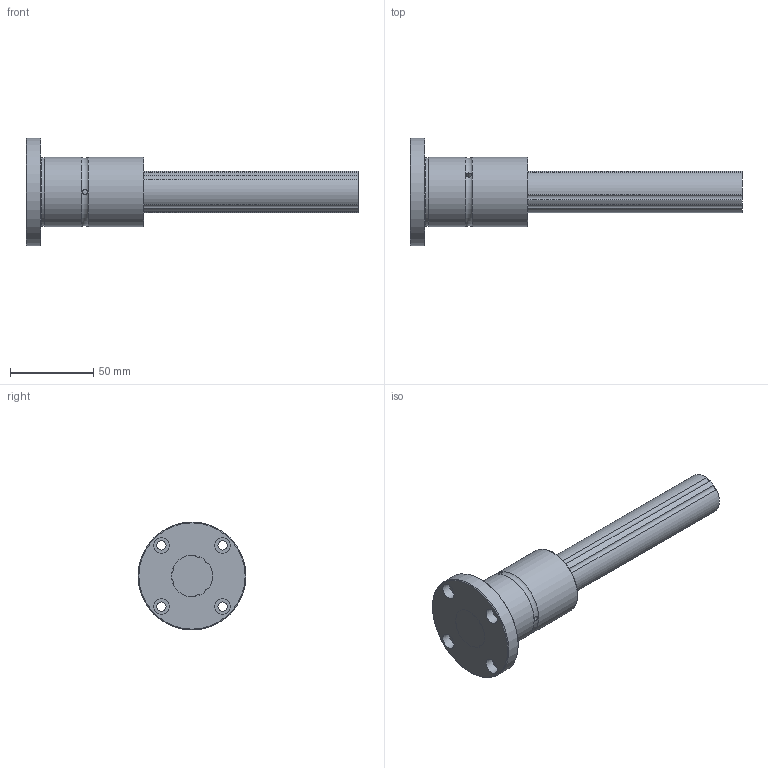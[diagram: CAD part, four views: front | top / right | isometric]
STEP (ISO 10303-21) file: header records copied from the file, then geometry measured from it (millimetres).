
FILE_DESCRIPTION(/* description */ ('STEP AP214'),/* implementation_level */ '2;1');
FILE_NAME(/* name */ 'LF251200(00)',/* time_stamp */ '2024-09-05T14:35:23+02:00',/* author */ ('License CC BY-ND 4.0'),/* organization */ ('CADENAS'),/* preprocessor_version */ 'ST-DEVELOPER v19.3',/* originating_system */ 'PARTsolutions',/* authorisation */ ' ');
FILE_SCHEMA (('AUTOMOTIVE_DESIGN {1 0 10303 214 3 1 1}'));
Length unit declared in the file: millimetre
Products named in the file (3): LF251200(00); LF 25200 FTLFShaft; LF 25 FTLF Cylindar
Assembly tree (2 placements, depth 2):
  LF251200(00)
    LF 25200 FTLFShaft
    LF 25 FTLF Cylindar
Bounding box: 200 x 65 x 65 mm (x, y, z)
Volume: 175431.7 mm3; surface area: 39338.8 mm2
Topology: 2 solids, 2 shells, 54 faces, 134 edges, 89 vertices
Faces by surface type: cylinder 39, plane 9, torus 4, cone 2
Full cylindrical faces by diameter (mm): 3 x3, 5.5 x4, 9.5 x4, 41.4 x1, 42 x2, 65 x1
Entity records: 1634 total; most frequent: CARTESIAN_POINT 306, DIRECTION 290, ORIENTED_EDGE 212, AXIS2_PLACEMENT_3D 133, EDGE_CURVE 106, EDGE_LOOP 96, FACE_BOUND 96, VERTEX_POINT 82
